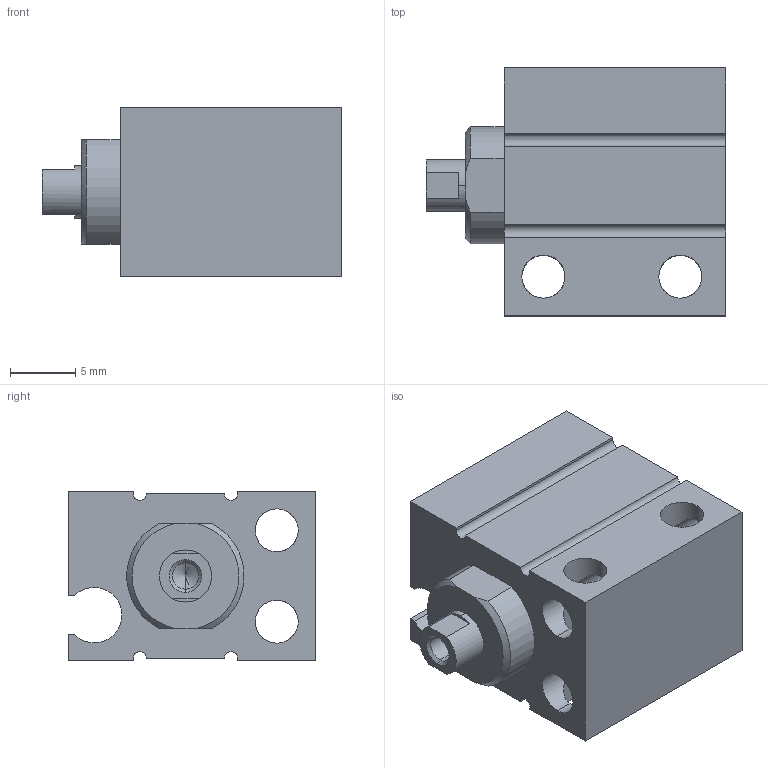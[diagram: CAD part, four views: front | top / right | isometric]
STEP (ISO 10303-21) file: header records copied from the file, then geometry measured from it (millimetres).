
FILE_DESCRIPTION (( 'STEP AP203' ), '1' );
FILE_NAME ('CLJB6-4.STEP', '2020-07-30T18:41:50', ( '' ), ( '' ), 'SwSTEP 2.0', 'SolidWorks 2019', '' );
FILE_SCHEMA (( 'CONFIG_CONTROL_DESIGN' ));
Length unit declared in the file: millimetre
Products named in the file (1): CLJB6-4
Bounding box: 23 x 19 x 13 mm (x, y, z)
Volume: 3557.2 mm3; surface area: 2751.9 mm2
Topology: 2 solids, 2 shells, 92 faces, 240 edges, 145 vertices
Faces by surface type: cylinder 49, plane 29, cone 14
Entity records: 2863 total; most frequent: CARTESIAN_POINT 580, ORIENTED_EDGE 468, DIRECTION 462, EDGE_CURVE 234, AXIS2_PLACEMENT_3D 171, VERTEX_POINT 145, LINE 120, VECTOR 120
